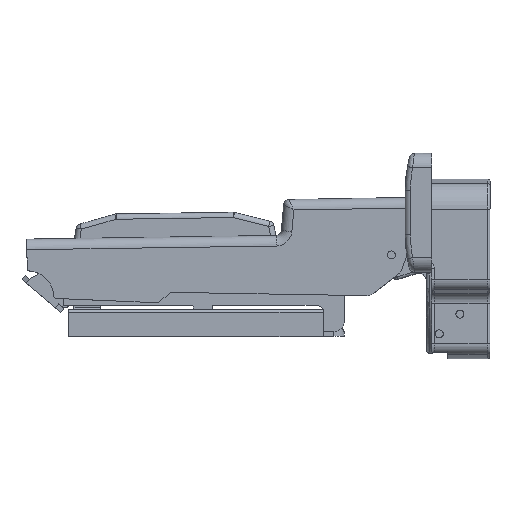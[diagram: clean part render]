
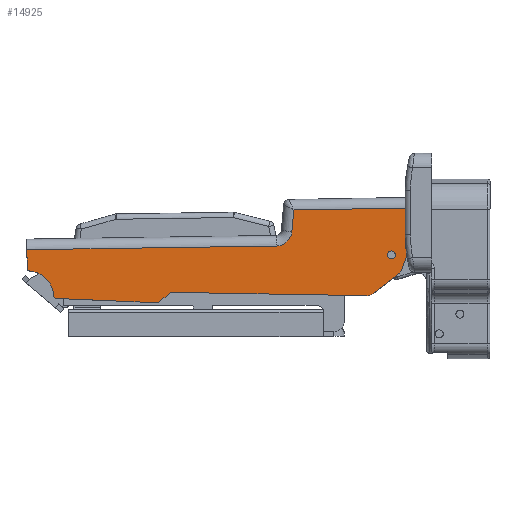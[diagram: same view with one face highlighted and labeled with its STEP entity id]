
A CAD part, top view. The second image highlights one B-rep face of the part: STEP entity #14925.
In plain terms, the highlighted planar face has unit normal (0, 0, 1).
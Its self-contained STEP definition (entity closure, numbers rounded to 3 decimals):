
#1149=FACE_BOUND('',#3544,.T.);
#1150=FACE_BOUND('',#3545,.T.);
#1893=CIRCLE('',#16308,0.5);
#1908=CIRCLE('',#16326,0.5);
#1954=CIRCLE('',#16429,3.);
#1955=CIRCLE('',#16437,2.);
#1957=CIRCLE('',#16444,5.);
#1958=CIRCLE('',#16448,1.);
#1959=CIRCLE('',#16453,1.);
#1960=CIRCLE('',#16458,2.);
#1961=CIRCLE('',#16463,2.);
#1962=CIRCLE('',#16468,1.);
#1963=CIRCLE('',#16473,2.);
#1964=CIRCLE('',#16478,0.75);
#1965=CIRCLE('',#16480,0.75);
#2670=FACE_OUTER_BOUND('',#3543,.T.);
#3543=EDGE_LOOP('',(#12566,#12567,#12568,#12569,#12570,#12571,#12572,#12573,
#12574,#12575,#12576,#12577,#12578,#12579,#12580,#12581,#12582,#12583,#12584,
#12585,#12586,#12587));
#3544=EDGE_LOOP('',(#12588));
#3545=EDGE_LOOP('',(#12589));
#4489=LINE('',#24452,#5763);
#4505=LINE('',#24512,#5779);
#4578=LINE('',#24887,#5852);
#4581=LINE('',#24905,#5855);
#4582=LINE('',#24911,#5856);
#4597=LINE('',#24950,#5871);
#4602=LINE('',#24962,#5876);
#4607=LINE('',#24974,#5881);
#4612=LINE('',#24986,#5886);
#4617=LINE('',#24998,#5891);
#4620=LINE('',#25007,#5894);
#5763=VECTOR('',#19312,10.);
#5779=VECTOR('',#19362,10.);
#5852=VECTOR('',#19625,10.);
#5855=VECTOR('',#19636,10.);
#5856=VECTOR('',#19645,10.);
#5871=VECTOR('',#19700,10.);
#5876=VECTOR('',#19715,10.);
#5881=VECTOR('',#19730,10.);
#5886=VECTOR('',#19745,10.);
#5891=VECTOR('',#19760,10.);
#5894=VECTOR('',#19773,10.);
#7114=VERTEX_POINT('',#24439);
#7115=VERTEX_POINT('',#24440);
#7119=VERTEX_POINT('',#24450);
#7144=VERTEX_POINT('',#24504);
#7145=VERTEX_POINT('',#24505);
#7146=VERTEX_POINT('',#24511);
#7235=VERTEX_POINT('',#24880);
#7237=VERTEX_POINT('',#24886);
#7240=VERTEX_POINT('',#24903);
#7241=VERTEX_POINT('',#24907);
#7242=VERTEX_POINT('',#24923);
#7244=VERTEX_POINT('',#24942);
#7245=VERTEX_POINT('',#24948);
#7246=VERTEX_POINT('',#24954);
#7247=VERTEX_POINT('',#24960);
#7248=VERTEX_POINT('',#24966);
#7249=VERTEX_POINT('',#24972);
#7250=VERTEX_POINT('',#24978);
#7251=VERTEX_POINT('',#24984);
#7252=VERTEX_POINT('',#24990);
#7253=VERTEX_POINT('',#24996);
#7254=VERTEX_POINT('',#25002);
#7255=VERTEX_POINT('',#25010);
#7256=VERTEX_POINT('',#25014);
#8867=EDGE_CURVE('',#7114,#7115,#1893,.T.);
#8873=EDGE_CURVE('',#7114,#7119,#4489,.T.);
#8899=EDGE_CURVE('',#7144,#7145,#1908,.T.);
#8903=EDGE_CURVE('',#7146,#7145,#4505,.T.);
#9035=EDGE_CURVE('',#7235,#7237,#4578,.T.);
#9042=EDGE_CURVE('',#7240,#7235,#4581,.T.);
#9044=EDGE_CURVE('',#7241,#7240,#1954,.T.);
#9045=EDGE_CURVE('',#7146,#7241,#4582,.T.);
#9051=EDGE_CURVE('',#7242,#7237,#1955,.T.);
#9057=EDGE_CURVE('',#7144,#7115,#1957,.T.);
#9061=EDGE_CURVE('',#7119,#7244,#1958,.T.);
#9064=EDGE_CURVE('',#7244,#7245,#4597,.T.);
#9067=EDGE_CURVE('',#7245,#7246,#1959,.T.);
#9070=EDGE_CURVE('',#7246,#7247,#4602,.T.);
#9073=EDGE_CURVE('',#7247,#7248,#1960,.T.);
#9076=EDGE_CURVE('',#7248,#7249,#4607,.T.);
#9079=EDGE_CURVE('',#7249,#7250,#1961,.T.);
#9082=EDGE_CURVE('',#7250,#7251,#4612,.T.);
#9085=EDGE_CURVE('',#7251,#7252,#1962,.T.);
#9088=EDGE_CURVE('',#7252,#7253,#4617,.T.);
#9091=EDGE_CURVE('',#7253,#7254,#1963,.T.);
#9092=EDGE_CURVE('',#7254,#7242,#4620,.T.);
#9094=EDGE_CURVE('',#7255,#7255,#1964,.T.);
#9096=EDGE_CURVE('',#7256,#7256,#1965,.T.);
#12566=ORIENTED_EDGE('',*,*,#8867,.F.);
#12567=ORIENTED_EDGE('',*,*,#8873,.T.);
#12568=ORIENTED_EDGE('',*,*,#9061,.T.);
#12569=ORIENTED_EDGE('',*,*,#9064,.T.);
#12570=ORIENTED_EDGE('',*,*,#9067,.T.);
#12571=ORIENTED_EDGE('',*,*,#9070,.T.);
#12572=ORIENTED_EDGE('',*,*,#9073,.T.);
#12573=ORIENTED_EDGE('',*,*,#9076,.T.);
#12574=ORIENTED_EDGE('',*,*,#9079,.T.);
#12575=ORIENTED_EDGE('',*,*,#9082,.T.);
#12576=ORIENTED_EDGE('',*,*,#9085,.T.);
#12577=ORIENTED_EDGE('',*,*,#9088,.T.);
#12578=ORIENTED_EDGE('',*,*,#9091,.T.);
#12579=ORIENTED_EDGE('',*,*,#9092,.T.);
#12580=ORIENTED_EDGE('',*,*,#9051,.T.);
#12581=ORIENTED_EDGE('',*,*,#9035,.F.);
#12582=ORIENTED_EDGE('',*,*,#9042,.F.);
#12583=ORIENTED_EDGE('',*,*,#9044,.F.);
#12584=ORIENTED_EDGE('',*,*,#9045,.F.);
#12585=ORIENTED_EDGE('',*,*,#8903,.T.);
#12586=ORIENTED_EDGE('',*,*,#8899,.F.);
#12587=ORIENTED_EDGE('',*,*,#9057,.T.);
#12588=ORIENTED_EDGE('',*,*,#9094,.T.);
#12589=ORIENTED_EDGE('',*,*,#9096,.T.);
#14226=PLANE('',#16484);
#14925=ADVANCED_FACE('',(#2670,#1149,#1150),#14226,.T.);
#16308=AXIS2_PLACEMENT_3D('',#24441,#19302,#19303);
#16326=AXIS2_PLACEMENT_3D('',#24506,#19355,#19356);
#16429=AXIS2_PLACEMENT_3D('',#24909,#19641,#19642);
#16437=AXIS2_PLACEMENT_3D('',#24924,#19663,#19664);
#16444=AXIS2_PLACEMENT_3D('',#24936,#19681,#19682);
#16448=AXIS2_PLACEMENT_3D('',#24944,#19692,#19693);
#16453=AXIS2_PLACEMENT_3D('',#24956,#19707,#19708);
#16458=AXIS2_PLACEMENT_3D('',#24968,#19722,#19723);
#16463=AXIS2_PLACEMENT_3D('',#24980,#19737,#19738);
#16468=AXIS2_PLACEMENT_3D('',#24992,#19752,#19753);
#16473=AXIS2_PLACEMENT_3D('',#25004,#19767,#19768);
#16478=AXIS2_PLACEMENT_3D('',#25012,#19779,#19780);
#16480=AXIS2_PLACEMENT_3D('',#25016,#19784,#19785);
#16484=AXIS2_PLACEMENT_3D('',#25023,#19795,#19796);
#19302=DIRECTION('center_axis',(0.,0.,-1.));
#19303=DIRECTION('ref_axis',(-0.679,-0.734,0.));
#19312=DIRECTION('',(1.,-0.007,0.));
#19355=DIRECTION('center_axis',(0.,0.,-1.));
#19356=DIRECTION('ref_axis',(-0.709,-0.705,0.));
#19362=DIRECTION('',(0.047,-0.999,0.));
#19625=DIRECTION('',(0.999,0.052,0.));
#19636=DIRECTION('',(0.053,0.999,0.));
#19641=DIRECTION('center_axis',(0.,0.,1.));
#19642=DIRECTION('ref_axis',(0.706,-0.708,0.));
#19645=DIRECTION('',(0.999,0.05,0.));
#19663=DIRECTION('center_axis',(0.,0.,1.));
#19664=DIRECTION('ref_axis',(1.,-0.027,0.));
#19681=DIRECTION('center_axis',(0.,0.,-1.));
#19682=DIRECTION('ref_axis',(-1.,0.007,0.));
#19692=DIRECTION('center_axis',(0.,0.,1.));
#19693=DIRECTION('ref_axis',(-0.007,-1.,0.));
#19700=DIRECTION('',(0.742,0.67,0.));
#19707=DIRECTION('center_axis',(0.,0.,-1.));
#19708=DIRECTION('ref_axis',(0.018,-1.,0.));
#19715=DIRECTION('',(1.,0.018,0.));
#19722=DIRECTION('center_axis',(0.,0.,1.));
#19723=DIRECTION('ref_axis',(0.018,-1.,0.));
#19730=DIRECTION('',(0.769,0.64,0.));
#19737=DIRECTION('center_axis',(0.,0.,1.));
#19738=DIRECTION('ref_axis',(0.64,-0.769,0.));
#19745=DIRECTION('',(0.333,0.943,0.));
#19752=DIRECTION('center_axis',(0.,0.,-1.));
#19753=DIRECTION('ref_axis',(-0.052,-0.999,0.));
#19760=DIRECTION('',(0.999,-0.052,0.));
#19767=DIRECTION('center_axis',(0.,0.,1.));
#19768=DIRECTION('ref_axis',(-0.052,-0.999,0.));
#19773=DIRECTION('',(0.027,1.,0.));
#19779=DIRECTION('center_axis',(0.,0.,-1.));
#19780=DIRECTION('ref_axis',(-1.,0.,0.));
#19784=DIRECTION('center_axis',(0.,0.,-1.));
#19785=DIRECTION('ref_axis',(-1.,0.,0.));
#19795=DIRECTION('center_axis',(0.,0.,1.));
#19796=DIRECTION('ref_axis',(1.,0.,0.));
#24439=CARTESIAN_POINT('',(-8.137,-0.183,8.5));
#24440=CARTESIAN_POINT('',(-8.631,0.275,8.5));
#24441=CARTESIAN_POINT('Origin',(-8.133,0.317,8.5));
#24450=CARTESIAN_POINT('',(10.739,-0.321,8.5));
#24452=CARTESIAN_POINT('',(-8.614,-0.18,8.5));
#24504=CARTESIAN_POINT('',(-13.354,4.847,8.5));
#24505=CARTESIAN_POINT('',(-13.828,5.322,8.5));
#24506=CARTESIAN_POINT('Origin',(-13.328,5.346,8.5));
#24511=CARTESIAN_POINT('',(-13.993,8.823,8.5));
#24512=CARTESIAN_POINT('',(-14.088,10.82,8.5));
#24880=CARTESIAN_POINT('',(36.075,18.06,8.5));
#24886=CARTESIAN_POINT('',(66.049,19.63,8.5));
#24887=CARTESIAN_POINT('',(43.453,18.446,8.5));
#24903=CARTESIAN_POINT('',(35.858,13.992,8.5));
#24905=CARTESIAN_POINT('',(35.86,14.022,8.5));
#24907=CARTESIAN_POINT('',(33.011,11.155,8.5));
#24909=CARTESIAN_POINT('Origin',(32.863,14.151,8.5));
#24911=CARTESIAN_POINT('',(29.872,10.999,8.5));
#24923=CARTESIAN_POINT('',(66.353,18.515,8.5));
#24924=CARTESIAN_POINT('Origin',(64.353,18.57,8.5));
#24936=CARTESIAN_POINT('Origin',(-13.614,-0.146,8.5));
#24942=CARTESIAN_POINT('',(11.417,-0.064,8.5));
#24944=CARTESIAN_POINT('Origin',(10.747,0.678,8.5));
#24948=CARTESIAN_POINT('',(13.12,1.473,8.5));
#24950=CARTESIAN_POINT('',(11.417,-0.064,8.5));
#24954=CARTESIAN_POINT('',(13.772,1.731,8.5));
#24956=CARTESIAN_POINT('Origin',(13.79,0.731,8.5));
#24960=CARTESIAN_POINT('',(50.343,2.389,8.5));
#24962=CARTESIAN_POINT('',(13.772,1.731,8.5));
#24966=CARTESIAN_POINT('',(51.586,2.852,8.5));
#24968=CARTESIAN_POINT('Origin',(50.307,4.389,8.5));
#24972=CARTESIAN_POINT('',(56.197,6.688,8.5));
#24974=CARTESIAN_POINT('',(51.586,2.852,8.5));
#24978=CARTESIAN_POINT('',(56.804,7.56,8.5));
#24980=CARTESIAN_POINT('Origin',(54.918,8.226,8.5));
#24984=CARTESIAN_POINT('',(58.564,12.546,8.5));
#24986=CARTESIAN_POINT('',(56.804,7.56,8.5));
#24990=CARTESIAN_POINT('',(59.559,13.212,8.5));
#24992=CARTESIAN_POINT('Origin',(59.507,12.214,8.5));
#24996=CARTESIAN_POINT('',(64.15,12.972,8.5));
#24998=CARTESIAN_POINT('',(59.559,13.212,8.5));
#25002=CARTESIAN_POINT('',(66.254,14.915,8.5));
#25004=CARTESIAN_POINT('Origin',(64.255,14.97,8.5));
#25007=CARTESIAN_POINT('',(66.254,14.915,8.5));
#25010=CARTESIAN_POINT('',(64.512,17.948,8.5));
#25012=CARTESIAN_POINT('Origin',(63.762,17.948,8.5));
#25014=CARTESIAN_POINT('',(55.525,10.228,8.5));
#25016=CARTESIAN_POINT('Origin',(54.775,10.228,8.5));
#25023=CARTESIAN_POINT('Origin',(26.796,9.554,8.5));
